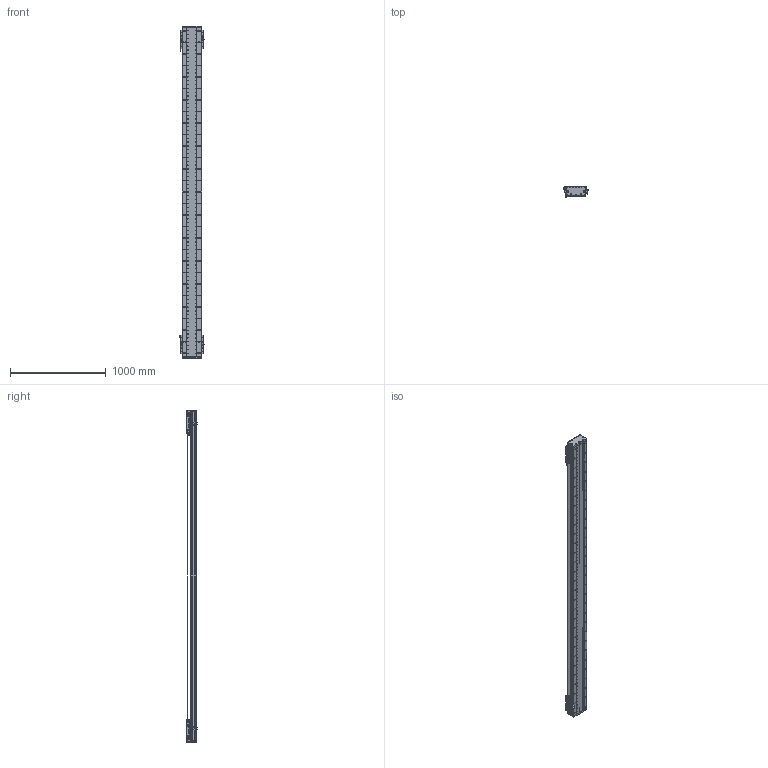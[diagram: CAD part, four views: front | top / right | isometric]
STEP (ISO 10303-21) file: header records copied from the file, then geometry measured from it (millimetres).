
FILE_DESCRIPTION (( 'STEP AP203' ), '1' );
FILE_NAME ('DA-C195-2-C2-T2960-C010-0.2 眻盄萇儂.STEP', '2025-08-14T02:15:25', ( '' ), ( '' ), 'SwSTEP 2.0', 'SolidWorks 2019', '' );
FILE_SCHEMA (( 'CONFIG_CONTROL_DESIGN' ));
Length unit declared in the file: millimetre
Products named in the file (19): DA195詩湍郪璃-1; MS200 棠掑喜S315-T1740-1; DKW-KGZ-ZJ-00 中间光电开关支架-1; PM-Y65嫖萇羲壽郪璃-1; DA195詩湍嶺輸-1; DKW168-HXJ-ZJ-00 笢潔滅袉砎蝶-1; IU-CU195-L-00 菁釱(L3420); PM-T45ㄗ侂狟ㄘ-1; LMT黍杅芛-1; 葩璃 DA95-GT-T-00-1; DKW-GYP-ZJ-00 笢潔嫖萇覜茼え-1; DA95-HXJ-00 遣喳砎蝶-1; DA195詩湍菜輸-1; IU-CU195-L 菁釱絳寢-1; DA-C195-GD-DB-H-00 傷啣-1; DA165-GYP-00 光电感应片(默认)-1; DA195詩湍裔啣-1; DA-C195-2-C2-T2960-C010-0.2 眻盄萇儂; CU195-C2賑輸-俋楷-1
Assembly tree (37 placements, depth 3):
  DA-C195-2-C2-T2960-C010-0.2 眻盄萇儂
    DA195詩湍郪璃-1
      DA195詩湍菜輸-1  x2
      DA195詩湍裔啣-1
      DA195詩湍嶺輸-1  x2
      DA95-HXJ-00 遣喳砎蝶-1  x8
      DA-C195-GD-DB-H-00 傷啣-1  x2
    IU-CU195-L 菁釱絳寢-1
      IU-CU195-L-00 菁釱(L3420)
      葩璃 DA95-GT-T-00-1  x4
    LMT黍杅芛-1  x2
    MS200 棠掑喜S315-T1740-1
    PM-T45ㄗ侂狟ㄘ-1  x4
    DA165-GYP-00 光电感应片(默认)-1  x2
    PM-Y65嫖萇羲壽郪璃-1
    DKW168-HXJ-ZJ-00 笢潔滅袉砎蝶-1
    DKW-GYP-ZJ-00 笢潔嫖萇覜茼え-1
    DKW-KGZ-ZJ-00 中间光电开关支架-1
    CU195-C2賑輸-俋楷-1  x2
Bounding box: 258.2 x 115.45 x 3460 mm (x, y, z)
Volume: 20485487.1 mm3; surface area: 6025614.9 mm2
Topology: 114 solids, 242 shells, 7367 faces, 19967 edges, 12481 vertices
Faces by surface type: cylinder 3644, plane 2639, cone 916, torus 88, sphere 72, bspline 8
Entity records: 169669 total; most frequent: CARTESIAN_POINT 47879, ORIENTED_EDGE 25766, DIRECTION 24074, EDGE_CURVE 12883, AXIS2_PLACEMENT_3D 8901, VERTEX_POINT 8368, VECTOR 6272, LINE 6272
